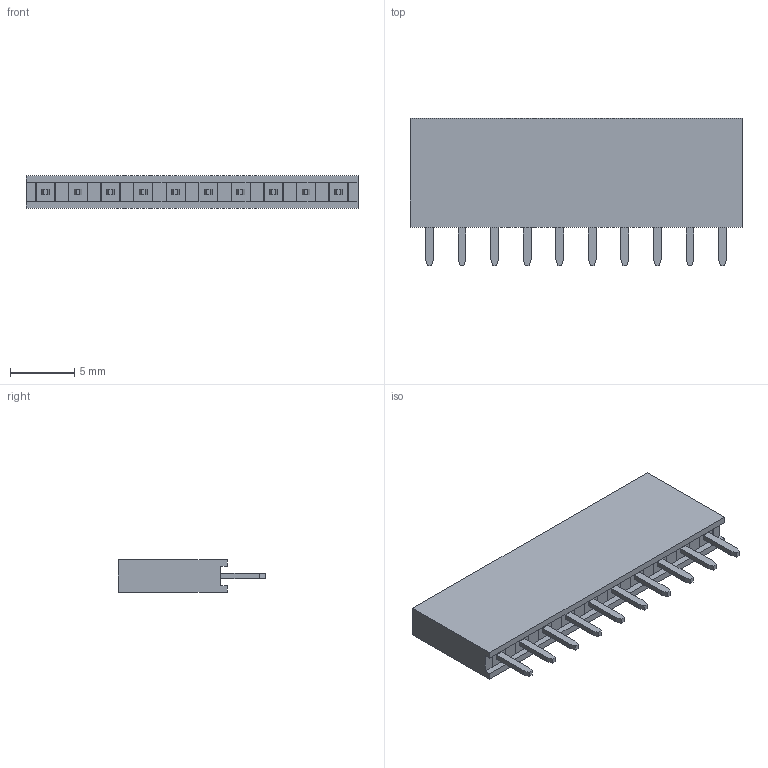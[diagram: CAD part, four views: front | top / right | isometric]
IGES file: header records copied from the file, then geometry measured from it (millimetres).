
Start section:  PTC IGES file: zl262-10s_p2-54_l25-9_w2-5_h8-5.igs
Global section: file name: zl262-10s_p2-54_l25-9_w2-5_h8-5.igs; native system: Pro/ENGINEER by Parametric Technology Corporation; preprocessor: 2004440; author: Dragos; organization: Unknown; date: 190116.175246; units: millimetre
Bounding box: 25.9 x 11.5 x 2.54 mm (x, y, z)
Volume: 498.1 mm3; surface area: 1353.2 mm2
Topology: 1 solids, 1 shells, 300 faces, 764 edges, 496 vertices
Faces by surface type: bspline 300
